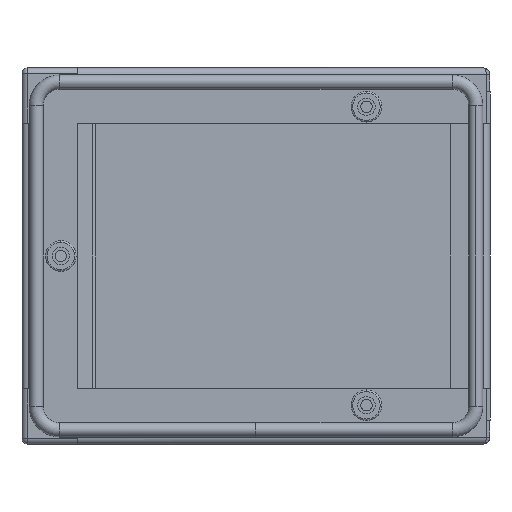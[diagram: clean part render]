
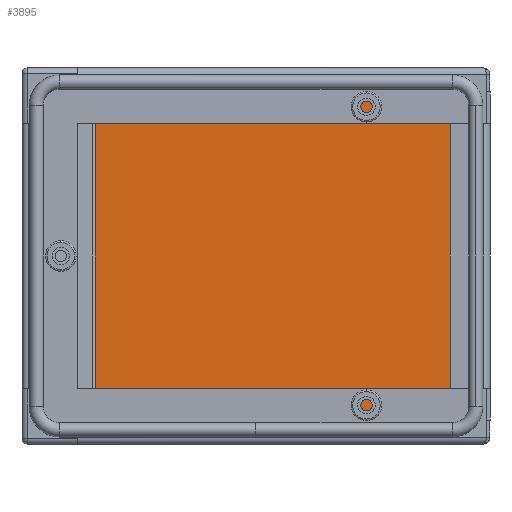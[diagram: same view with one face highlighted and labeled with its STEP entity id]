
A CAD part, left-side view. The second image highlights one B-rep face of the part: STEP entity #3895.
In plain terms, the highlighted planar face has unit normal (-1, 0, 0).
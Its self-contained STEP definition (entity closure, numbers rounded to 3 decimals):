
#107 = VECTOR ( 'NONE', #599, 1000. ) ;
#241 = LINE ( 'NONE', #429, #3924 ) ;
#394 = DIRECTION ( 'NONE',  ( 0., -1., 0. ) ) ;
#429 = CARTESIAN_POINT ( 'NONE',  ( -1.4, 81.199, 77.1 ) ) ;
#599 = DIRECTION ( 'NONE',  ( 0., 0., -1. ) ) ;
#685 = VECTOR ( 'NONE', #5118, 1000. ) ;
#797 = ORIENTED_EDGE ( 'NONE', *, *, #3129, .F. ) ;
#904 = VERTEX_POINT ( 'NONE', #2163 ) ;
#991 = CARTESIAN_POINT ( 'NONE',  ( -1.4, -83.8, -77.1 ) ) ;
#1087 = LINE ( 'NONE', #1830, #3160 ) ;
#1155 = EDGE_CURVE ( 'NONE', #1551, #904, #4423, .T. ) ;
#1354 = CARTESIAN_POINT ( 'NONE',  ( -1.4, 81.199, -77.1 ) ) ;
#1450 = VERTEX_POINT ( 'NONE', #2992 ) ;
#1551 = VERTEX_POINT ( 'NONE', #1354 ) ;
#1715 = DIRECTION ( 'NONE',  ( -1., 0., 0. ) ) ;
#1830 = CARTESIAN_POINT ( 'NONE',  ( -1.4, -83.8, -77.1 ) ) ;
#2123 = ORIENTED_EDGE ( 'NONE', *, *, #1155, .F. ) ;
#2163 = CARTESIAN_POINT ( 'NONE',  ( -1.4, 81.199, 77.1 ) ) ;
#2190 = CARTESIAN_POINT ( 'NONE',  ( -1.4, -83.8, 78.3 ) ) ;
#2211 = EDGE_LOOP ( 'NONE', ( #2123, #3943, #5177, #797 ) ) ;
#2617 = DIRECTION ( 'NONE',  ( 0., 1., 0. ) ) ;
#2992 = CARTESIAN_POINT ( 'NONE',  ( -1.4, -83.8, 77.1 ) ) ;
#3128 = VERTEX_POINT ( 'NONE', #991 ) ;
#3129 = EDGE_CURVE ( 'NONE', #904, #1450, #241, .T. ) ;
#3160 = VECTOR ( 'NONE', #2617, 1000. ) ;
#3203 = PLANE ( 'NONE',  #4226 ) ;
#3322 = EDGE_CURVE ( 'NONE', #3128, #1551, #1087, .T. ) ;
#3895 = ADVANCED_FACE ( 'NONE', ( #5188 ), #3203, .T. ) ;
#3924 = VECTOR ( 'NONE', #394, 1000. ) ;
#3943 = ORIENTED_EDGE ( 'NONE', *, *, #3322, .F. ) ;
#4060 = EDGE_CURVE ( 'NONE', #1450, #3128, #4936, .T. ) ;
#4226 = AXIS2_PLACEMENT_3D ( 'NONE', #4442, #1715, #4504 ) ;
#4318 = CARTESIAN_POINT ( 'NONE',  ( -1.4, 81.199, -78.3 ) ) ;
#4423 = LINE ( 'NONE', #4318, #685 ) ;
#4442 = CARTESIAN_POINT ( 'NONE',  ( -1.4, 0., 0. ) ) ;
#4504 = DIRECTION ( 'NONE',  ( 0., 0., 1. ) ) ;
#4936 = LINE ( 'NONE', #2190, #107 ) ;
#5118 = DIRECTION ( 'NONE',  ( 0., 0., 1. ) ) ;
#5177 = ORIENTED_EDGE ( 'NONE', *, *, #4060, .F. ) ;
#5188 = FACE_OUTER_BOUND ( 'NONE', #2211, .T. ) ;
